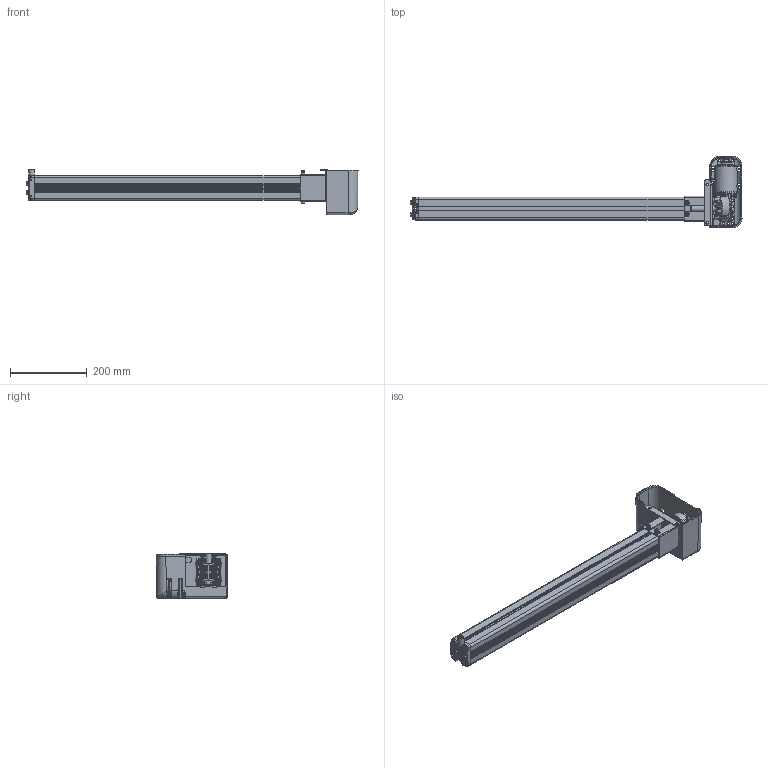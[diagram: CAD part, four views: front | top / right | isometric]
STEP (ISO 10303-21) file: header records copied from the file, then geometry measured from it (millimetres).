
FILE_DESCRIPTION(/* description */ ('Unknown'),/* implementation_level */ '2;1');
FILE_NAME(/* name */ '3X3.20035 Pumpe PF 4850 W mit Antrieb',/* time_stamp */ '2020-02-14T10:35:48+01:00',/* author */ ('Unknown'),/* organization */ ('Unknown'),/* preprocessor_version */ 'ST-DEVELOPER v16.7',/* originating_system */ 'DEX',/* authorisation */ $);
FILE_SCHEMA (('AUTOMOTIVE_DESIGN {1 0 10303 214 3 1 1}'));
Products named in the file (38): 103.20035; 115.10055_oa_0; 125.00126; 115.00008_oa_1; 142.00021; 125.00021; 115.10055_oa_2; 115.00008_oa_3; 142.00013; 115.10055_oa_4; 115.00008_oa_5; 115.10055_oa_6; 115.00008_oa_7; 142.00057; 125.00145; 115.00141; 126.00076; 122.00004; 119.00355; 126.00075; 112.0014X; 127.00315; Blechteil 2 PFD; Blechteil 1_Bügel PFD; 124.00090; Getriebe; Ring; Schraube; Stator; Abdeckplatte; Antriebswelle; 128.00051; 142.00018; 142.00019; 142.00228; 142.00131; 123.00029; 123.00048
Assembly tree (58 placements, depth 4):
  103.20035
    115.10055_oa_0
      125.00126
      115.00008_oa_1
      142.00021
      125.00021
    115.10055_oa_2
      125.00126
      115.00008_oa_3
      142.00021
      125.00021
    142.00013  x8
    115.10055_oa_4
      125.00126
      115.00008_oa_5
      142.00021
      125.00021
    115.10055_oa_6
      125.00126
      115.00008_oa_7
      142.00021
      125.00021
    142.00057
    125.00145
    115.00141
      126.00076
      122.00004
    119.00355
    126.00075
    112.0014X
      127.00315
        Blechteil 2 PFD
        Blechteil 1_Bügel PFD
      124.00090
        Getriebe
        Ring
        Schraube
        Stator
        Abdeckplatte
        Antriebswelle
      128.00051
      142.00018  x2
      142.00019  x2
      142.00228  x2
      142.00131  x3
      123.00029
    123.00048
Bounding box: 865.42 x 186.04 x 117.45 mm (x, y, z)
Volume: 1332898.8 mm3; surface area: 809856.2 mm2
Topology: 46 solids, 48 shells, 4623 faces, 12048 edges, 7439 vertices
Faces by surface type: plane 1557, cylinder 1236, bspline 1115, cone 463, torus 200, sphere 52
Full cylindrical faces by diameter (mm): 2.5 x4, 3.2 x4, 3.5 x4, 3.9 x5, 4.1 x4, 4.2 x6, 4.4 x5, 4.5 x1, 4.917 x2, 5 x8, 5.5 x5, 6 x6, 6.4 x2, 6.8 x9, 6.917 x8, 7 x1, 8 x10, 8.5 x2, 9 x2, 9.5 x1, 9.8 x8, 10 x8, 10.3 x1, 10.32 x1, 10.4 x1, 11 x5, 13 x4, 14 x3, 14.4 x4, 15 x1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
Entity records: 195030 total; most frequent: CARTESIAN_POINT 110220, ORIENTED_EDGE 19068, DIRECTION 14158, EDGE_CURVE 9534, VERTEX_POINT 6254, AXIS2_PLACEMENT_3D 5212, FACE_BOUND 4444, EDGE_LOOP 4439
